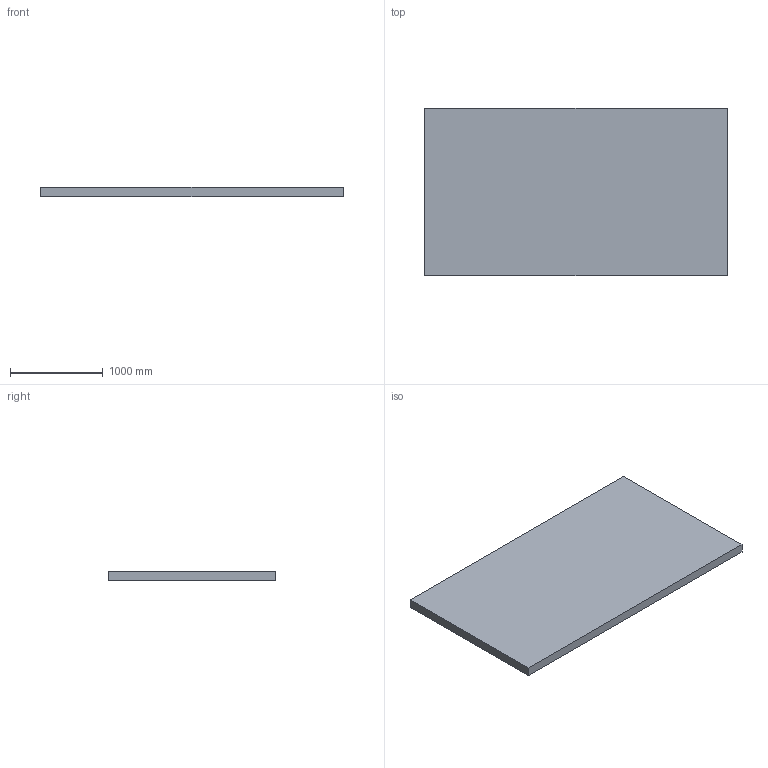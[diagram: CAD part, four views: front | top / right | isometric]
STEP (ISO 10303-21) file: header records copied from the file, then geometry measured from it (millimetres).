
FILE_DESCRIPTION (( 'STEP AP203' ), '1' );
FILE_NAME ('Mur droit.STEP', '2025-09-18T11:57:49', ( '' ), ( '' ), 'SwSTEP 2.0', 'SolidWorks 2019', '' );
FILE_SCHEMA (( 'CONFIG_CONTROL_DESIGN' ));
Length unit declared in the file: millimetre
Products named in the file (1): Mur droit
Bounding box: 3260 x 1800 x 100 mm (x, y, z)
Volume: 586800000 mm3; surface area: 12748000 mm2
Topology: 1 solids, 1 shells, 6 faces, 12 edges, 8 vertices
Faces by surface type: plane 6
Entity records: 233 total; most frequent: CARTESIAN_POINT 27, DIRECTION 26, ORIENTED_EDGE 24, EDGE_CURVE 12, VECTOR 12, LINE 12, VERTEX_POINT 8, PERSON_AND_ORGANIZATION 8
